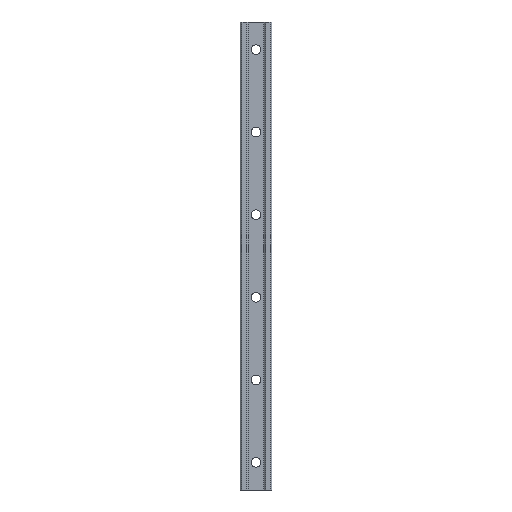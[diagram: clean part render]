
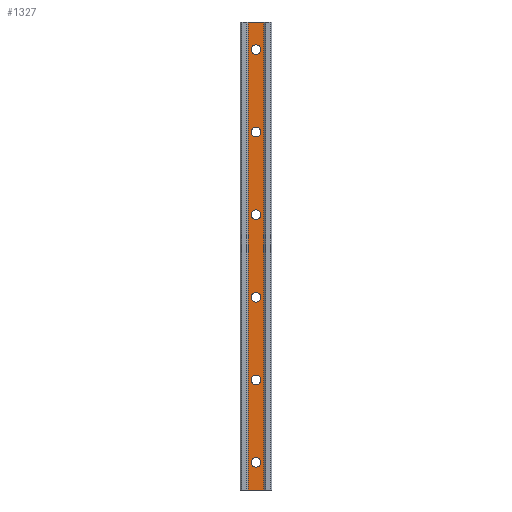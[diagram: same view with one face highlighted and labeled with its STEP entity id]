
A CAD part, front view. The second image highlights one B-rep face of the part: STEP entity #1327.
In plain terms, the highlighted planar face has unit normal (0, -1, 0).
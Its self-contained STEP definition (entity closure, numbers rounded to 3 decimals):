
#2 = AXIS2_PLACEMENT_3D ( 'NONE', #805, #1060, #348 ) ;
#11 = DIRECTION ( 'NONE',  ( 0., 0., 1. ) ) ;
#19 = VERTEX_POINT ( 'NONE', #83 ) ;
#26 = ORIENTED_EDGE ( 'NONE', *, *, #1532, .T. ) ;
#42 = CARTESIAN_POINT ( 'NONE',  ( -5.75, 1.25, -170. ) ) ;
#83 = CARTESIAN_POINT ( 'NONE',  ( 0., 1.25, 93.5 ) ) ;
#84 = DIRECTION ( 'NONE',  ( 0., 1., 0. ) ) ;
#91 = ORIENTED_EDGE ( 'NONE', *, *, #1117, .T. ) ;
#108 = ORIENTED_EDGE ( 'NONE', *, *, #1393, .F. ) ;
#126 = DIRECTION ( 'NONE',  ( 0., 0., 1. ) ) ;
#130 = CARTESIAN_POINT ( 'NONE',  ( 0., 1.25, 26.5 ) ) ;
#147 = ORIENTED_EDGE ( 'NONE', *, *, #1437, .T. ) ;
#154 = CIRCLE ( 'NONE', #2, 3.5 ) ;
#157 = FACE_BOUND ( 'NONE', #272, .T. ) ;
#160 = ORIENTED_EDGE ( 'NONE', *, *, #535, .T. ) ;
#171 = CARTESIAN_POINT ( 'NONE',  ( 0., 1.25, -153.5 ) ) ;
#184 = AXIS2_PLACEMENT_3D ( 'NONE', #248, #1249, #126 ) ;
#194 = AXIS2_PLACEMENT_3D ( 'NONE', #431, #696, #836 ) ;
#248 = CARTESIAN_POINT ( 'NONE',  ( 0., 1.25, 150. ) ) ;
#256 = EDGE_CURVE ( 'NONE', #1819, #636, #1557, .T. ) ;
#272 = EDGE_LOOP ( 'NONE', ( #160, #1025 ) ) ;
#310 = CIRCLE ( 'NONE', #627, 3.5 ) ;
#322 = VERTEX_POINT ( 'NONE', #553 ) ;
#323 = DIRECTION ( 'NONE',  ( -1., 0., 0. ) ) ;
#327 = CARTESIAN_POINT ( 'NONE',  ( 0., 1.25, -30. ) ) ;
#345 = ORIENTED_EDGE ( 'NONE', *, *, #1308, .T. ) ;
#348 = DIRECTION ( 'NONE',  ( 0., 0., 1. ) ) ;
#354 = DIRECTION ( 'NONE',  ( 0., 0., 1. ) ) ;
#355 = AXIS2_PLACEMENT_3D ( 'NONE', #1144, #721, #11 ) ;
#367 = VERTEX_POINT ( 'NONE', #171 ) ;
#386 = CARTESIAN_POINT ( 'NONE',  ( 5.75, 1.25, 170. ) ) ;
#402 = EDGE_CURVE ( 'NONE', #1514, #664, #1380, .T. ) ;
#431 = CARTESIAN_POINT ( 'NONE',  ( 0., 1.25, 30. ) ) ;
#441 = FACE_OUTER_BOUND ( 'NONE', #1235, .T. ) ;
#473 = CARTESIAN_POINT ( 'NONE',  ( 0., 1.25, 153.5 ) ) ;
#476 = EDGE_CURVE ( 'NONE', #636, #1819, #1127, .T. ) ;
#481 = DIRECTION ( 'NONE',  ( 0., 0., 1. ) ) ;
#494 = ORIENTED_EDGE ( 'NONE', *, *, #1024, .T. ) ;
#516 = ORIENTED_EDGE ( 'NONE', *, *, #1188, .T. ) ;
#528 = ORIENTED_EDGE ( 'NONE', *, *, #476, .T. ) ;
#535 = EDGE_CURVE ( 'NONE', #1789, #847, #859, .T. ) ;
#553 = CARTESIAN_POINT ( 'NONE',  ( 0., 1.25, -33.5 ) ) ;
#561 = EDGE_CURVE ( 'NONE', #1514, #702, #1637, .T. ) ;
#568 = DIRECTION ( 'NONE',  ( 0., 1., 0. ) ) ;
#611 = DIRECTION ( 'NONE',  ( 0., 1., 0. ) ) ;
#622 = CARTESIAN_POINT ( 'NONE',  ( 0., 1.25, 150. ) ) ;
#627 = AXIS2_PLACEMENT_3D ( 'NONE', #1680, #1825, #1283 ) ;
#628 = DIRECTION ( 'NONE',  ( 0., 0., 1. ) ) ;
#636 = VERTEX_POINT ( 'NONE', #1373 ) ;
#641 = ORIENTED_EDGE ( 'NONE', *, *, #1474, .T. ) ;
#649 = CARTESIAN_POINT ( 'NONE',  ( -5.75, 1.25, -170. ) ) ;
#661 = CARTESIAN_POINT ( 'NONE',  ( 0., 1.25, -150. ) ) ;
#664 = VERTEX_POINT ( 'NONE', #649 ) ;
#685 = VERTEX_POINT ( 'NONE', #1229 ) ;
#696 = DIRECTION ( 'NONE',  ( 0., 1., 0. ) ) ;
#697 = ORIENTED_EDGE ( 'NONE', *, *, #402, .F. ) ;
#702 = VERTEX_POINT ( 'NONE', #386 ) ;
#721 = DIRECTION ( 'NONE',  ( 0., 1., 0. ) ) ;
#764 = AXIS2_PLACEMENT_3D ( 'NONE', #661, #1238, #628 ) ;
#765 = DIRECTION ( 'NONE',  ( 0., 1., 0. ) ) ;
#775 = VECTOR ( 'NONE', #323, 1000. ) ;
#778 = DIRECTION ( 'NONE',  ( 0., 1., 0. ) ) ;
#788 = DIRECTION ( 'NONE',  ( 0., 0., 1. ) ) ;
#805 = CARTESIAN_POINT ( 'NONE',  ( 0., 1.25, -150. ) ) ;
#812 = AXIS2_PLACEMENT_3D ( 'NONE', #622, #778, #788 ) ;
#827 = VERTEX_POINT ( 'NONE', #1414 ) ;
#836 = DIRECTION ( 'NONE',  ( 0., 0., 1. ) ) ;
#847 = VERTEX_POINT ( 'NONE', #1002 ) ;
#859 = CIRCLE ( 'NONE', #1280, 3.5 ) ;
#880 = CIRCLE ( 'NONE', #1551, 3.5 ) ;
#901 = CARTESIAN_POINT ( 'NONE',  ( 0., 1.25, 86.5 ) ) ;
#913 = CARTESIAN_POINT ( 'NONE',  ( 0., 1.25, -90. ) ) ;
#926 = CARTESIAN_POINT ( 'NONE',  ( -5.75, 1.25, 170. ) ) ;
#931 = EDGE_CURVE ( 'NONE', #847, #1789, #880, .T. ) ;
#1002 = CARTESIAN_POINT ( 'NONE',  ( 0., 1.25, -93.5 ) ) ;
#1004 = VECTOR ( 'NONE', #1434, 1000. ) ;
#1007 = ORIENTED_EDGE ( 'NONE', *, *, #1066, .T. ) ;
#1010 = VERTEX_POINT ( 'NONE', #473 ) ;
#1024 = EDGE_CURVE ( 'NONE', #702, #1604, #1147, .T. ) ;
#1025 = ORIENTED_EDGE ( 'NONE', *, *, #931, .T. ) ;
#1032 = CARTESIAN_POINT ( 'NONE',  ( -5.75, 1.25, 170. ) ) ;
#1036 = DIRECTION ( 'NONE',  ( 0., 1., 0. ) ) ;
#1037 = DIRECTION ( 'NONE',  ( 0., 0., 1. ) ) ;
#1055 = VERTEX_POINT ( 'NONE', #1651 ) ;
#1060 = DIRECTION ( 'NONE',  ( 0., 1., 0. ) ) ;
#1066 = EDGE_CURVE ( 'NONE', #827, #367, #1142, .T. ) ;
#1108 = EDGE_LOOP ( 'NONE', ( #528, #1452 ) ) ;
#1117 = EDGE_CURVE ( 'NONE', #367, #827, #154, .T. ) ;
#1127 = CIRCLE ( 'NONE', #1182, 3.5 ) ;
#1133 = AXIS2_PLACEMENT_3D ( 'NONE', #1700, #568, #1564 ) ;
#1134 = ORIENTED_EDGE ( 'NONE', *, *, #561, .T. ) ;
#1142 = CIRCLE ( 'NONE', #764, 3.5 ) ;
#1144 = CARTESIAN_POINT ( 'NONE',  ( 0., 1.25, -30. ) ) ;
#1147 = LINE ( 'NONE', #1032, #775 ) ;
#1159 = AXIS2_PLACEMENT_3D ( 'NONE', #1608, #1036, #1193 ) ;
#1163 = CARTESIAN_POINT ( 'NONE',  ( 0., 1.25, -90. ) ) ;
#1174 = CIRCLE ( 'NONE', #1159, 3.5 ) ;
#1182 = AXIS2_PLACEMENT_3D ( 'NONE', #1477, #84, #481 ) ;
#1188 = EDGE_CURVE ( 'NONE', #1055, #1010, #1577, .T. ) ;
#1193 = DIRECTION ( 'NONE',  ( 0., 0., 1. ) ) ;
#1195 = FACE_BOUND ( 'NONE', #1784, .T. ) ;
#1200 = CIRCLE ( 'NONE', #355, 3.5 ) ;
#1213 = CARTESIAN_POINT ( 'NONE',  ( 5.75, 1.25, -170. ) ) ;
#1217 = EDGE_LOOP ( 'NONE', ( #1007, #91 ) ) ;
#1229 = CARTESIAN_POINT ( 'NONE',  ( 0., 1.25, -26.5 ) ) ;
#1235 = EDGE_LOOP ( 'NONE', ( #494, #108, #697, #1134 ) ) ;
#1238 = DIRECTION ( 'NONE',  ( 0., 1., 0. ) ) ;
#1240 = FACE_BOUND ( 'NONE', #1108, .T. ) ;
#1249 = DIRECTION ( 'NONE',  ( 0., 1., 0. ) ) ;
#1276 = EDGE_CURVE ( 'NONE', #1454, #19, #310, .T. ) ;
#1280 = AXIS2_PLACEMENT_3D ( 'NONE', #913, #1350, #1624 ) ;
#1283 = DIRECTION ( 'NONE',  ( 0., 0., 1. ) ) ;
#1308 = EDGE_CURVE ( 'NONE', #685, #322, #1200, .T. ) ;
#1327 = ADVANCED_FACE ( 'NONE', ( #1328, #1240, #1572, #157, #1773, #1195, #441 ), #1435, .F. ) ;
#1328 = FACE_BOUND ( 'NONE', #1699, .T. ) ;
#1331 = DIRECTION ( 'NONE',  ( 0., 0., 1. ) ) ;
#1350 = DIRECTION ( 'NONE',  ( 0., 1., 0. ) ) ;
#1354 = AXIS2_PLACEMENT_3D ( 'NONE', #327, #765, #1458 ) ;
#1362 = CARTESIAN_POINT ( 'NONE',  ( 5.75, 1.25, -170. ) ) ;
#1368 = ORIENTED_EDGE ( 'NONE', *, *, #1276, .T. ) ;
#1373 = CARTESIAN_POINT ( 'NONE',  ( 0., 1.25, 33.5 ) ) ;
#1377 = VECTOR ( 'NONE', #354, 1000. ) ;
#1380 = LINE ( 'NONE', #42, #1004 ) ;
#1390 = CARTESIAN_POINT ( 'NONE',  ( 0., 1.25, -86.5 ) ) ;
#1393 = EDGE_CURVE ( 'NONE', #664, #1604, #1595, .T. ) ;
#1414 = CARTESIAN_POINT ( 'NONE',  ( 0., 1.25, -146.5 ) ) ;
#1434 = DIRECTION ( 'NONE',  ( -1., 0., 0. ) ) ;
#1435 = PLANE ( 'NONE',  #1133 ) ;
#1437 = EDGE_CURVE ( 'NONE', #322, #685, #1636, .T. ) ;
#1452 = ORIENTED_EDGE ( 'NONE', *, *, #256, .T. ) ;
#1454 = VERTEX_POINT ( 'NONE', #901 ) ;
#1458 = DIRECTION ( 'NONE',  ( 0., 0., 1. ) ) ;
#1467 = CARTESIAN_POINT ( 'NONE',  ( -5.75, 1.25, -170. ) ) ;
#1474 = EDGE_CURVE ( 'NONE', #19, #1454, #1174, .T. ) ;
#1477 = CARTESIAN_POINT ( 'NONE',  ( 0., 1.25, 30. ) ) ;
#1514 = VERTEX_POINT ( 'NONE', #1362 ) ;
#1529 = CIRCLE ( 'NONE', #812, 3.5 ) ;
#1532 = EDGE_CURVE ( 'NONE', #1010, #1055, #1529, .T. ) ;
#1551 = AXIS2_PLACEMENT_3D ( 'NONE', #1163, #611, #1037 ) ;
#1557 = CIRCLE ( 'NONE', #194, 3.5 ) ;
#1564 = DIRECTION ( 'NONE',  ( 0., 0., 1. ) ) ;
#1572 = FACE_BOUND ( 'NONE', #1630, .T. ) ;
#1577 = CIRCLE ( 'NONE', #184, 3.5 ) ;
#1595 = LINE ( 'NONE', #1467, #1704 ) ;
#1604 = VERTEX_POINT ( 'NONE', #926 ) ;
#1608 = CARTESIAN_POINT ( 'NONE',  ( 0., 1.25, 90. ) ) ;
#1624 = DIRECTION ( 'NONE',  ( 0., 0., 1. ) ) ;
#1630 = EDGE_LOOP ( 'NONE', ( #345, #147 ) ) ;
#1636 = CIRCLE ( 'NONE', #1354, 3.5 ) ;
#1637 = LINE ( 'NONE', #1213, #1377 ) ;
#1651 = CARTESIAN_POINT ( 'NONE',  ( 0., 1.25, 146.5 ) ) ;
#1680 = CARTESIAN_POINT ( 'NONE',  ( 0., 1.25, 90. ) ) ;
#1699 = EDGE_LOOP ( 'NONE', ( #641, #1368 ) ) ;
#1700 = CARTESIAN_POINT ( 'NONE',  ( -5.75, 1.25, -170. ) ) ;
#1704 = VECTOR ( 'NONE', #1331, 1000. ) ;
#1773 = FACE_BOUND ( 'NONE', #1217, .T. ) ;
#1784 = EDGE_LOOP ( 'NONE', ( #26, #516 ) ) ;
#1789 = VERTEX_POINT ( 'NONE', #1390 ) ;
#1819 = VERTEX_POINT ( 'NONE', #130 ) ;
#1825 = DIRECTION ( 'NONE',  ( 0., 1., 0. ) ) ;
